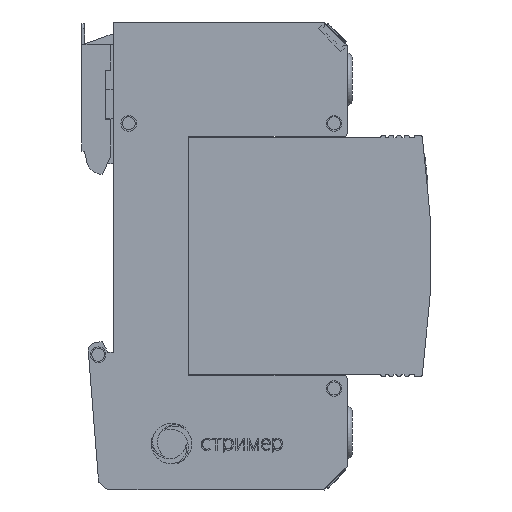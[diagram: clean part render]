
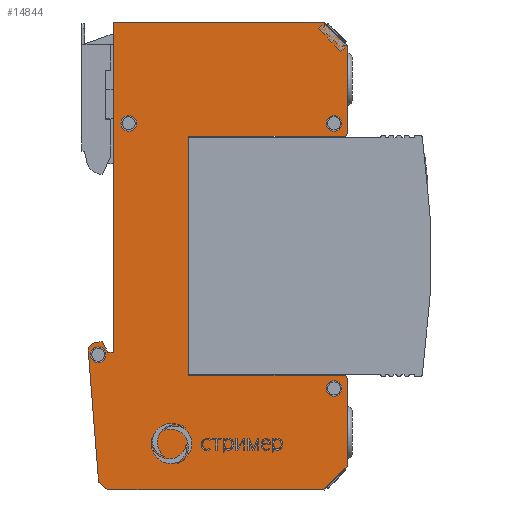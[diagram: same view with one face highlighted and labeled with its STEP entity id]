
A CAD part, front view. The second image highlights one B-rep face of the part: STEP entity #14844.
In plain terms, the highlighted planar face has unit normal (0, -1, 0).
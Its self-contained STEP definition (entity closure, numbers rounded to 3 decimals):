
#13154=CARTESIAN_POINT('',(-14.5,-18.,45.));
#13155=VERTEX_POINT('',#13154);
#13162=CARTESIAN_POINT('',(26.,-18.,45.));
#13163=VERTEX_POINT('',#13162);
#13164=CARTESIAN_POINT('',(-14.5,-18.,45.));
#13165=DIRECTION('',(1.,-0.,-0.));
#13166=VECTOR('',#13165,40.5);
#13167=LINE('',#13164,#13166);
#13168=EDGE_CURVE('',#13155,#13163,#13167,.T.);
#13792=CARTESIAN_POINT('',(-14.5,-18.,-18.5));
#13793=VERTEX_POINT('',#13792);
#13800=CARTESIAN_POINT('',(-14.5,-18.,-18.5));
#13801=DIRECTION('',(-0.,-0.,1.));
#13802=VECTOR('',#13801,63.5);
#13803=LINE('',#13800,#13802);
#13804=EDGE_CURVE('',#13793,#13155,#13803,.T.);
#13999=CARTESIAN_POINT('',(-15.5,-18.,-45.));
#14000=VERTEX_POINT('',#13999);
#14007=CARTESIAN_POINT('',(-17.29,-18.,-43.498));
#14008=VERTEX_POINT('',#14007);
#14009=CARTESIAN_POINT('',(-15.5,-18.,-45.));
#14010=DIRECTION('',(-0.766,-0.,0.643));
#14011=VECTOR('',#14010,2.337);
#14012=LINE('',#14009,#14011);
#14013=EDGE_CURVE('',#14000,#14008,#14012,.T.);
#14038=CARTESIAN_POINT('',(-19.273,-18.,-18.306));
#14039=VERTEX_POINT('',#14038);
#14040=CARTESIAN_POINT('',(-17.29,-18.,-43.498));
#14041=DIRECTION('',(-0.078,-0.,0.997));
#14042=VECTOR('',#14041,25.27);
#14043=LINE('',#14040,#14042);
#14044=EDGE_CURVE('',#14008,#14039,#14043,.T.);
#14070=CARTESIAN_POINT('',(-17.999,-18.,-16.704));
#14071=VERTEX_POINT('',#14070);
#14072=CARTESIAN_POINT('',(-17.777,-18.,-18.188));
#14073=DIRECTION('',(0.,1.,0.));
#14074=DIRECTION('',(0.,-0.,1.));
#14075=AXIS2_PLACEMENT_3D('',#14072,#14073,#14074);
#14076=CIRCLE('',#14075,1.5);
#14077=EDGE_CURVE('',#14039,#14071,#14076,.T.);
#14102=CARTESIAN_POINT('',(-16.632,-18.,-16.5));
#14103=VERTEX_POINT('',#14102);
#14104=CARTESIAN_POINT('',(-17.999,-18.,-16.704));
#14105=DIRECTION('',(0.989,-0.,0.148));
#14106=VECTOR('',#14105,1.383);
#14107=LINE('',#14104,#14106);
#14108=EDGE_CURVE('',#14071,#14103,#14107,.T.);
#14133=CARTESIAN_POINT('',(-15.5,-18.,-18.5));
#14134=VERTEX_POINT('',#14133);
#14135=CARTESIAN_POINT('',(-16.632,-18.,-16.5));
#14136=DIRECTION('',(0.492,0.,-0.87));
#14137=VECTOR('',#14136,2.298);
#14138=LINE('',#14135,#14137);
#14139=EDGE_CURVE('',#14103,#14134,#14138,.T.);
#14162=CARTESIAN_POINT('',(-15.5,-18.,-18.5));
#14163=DIRECTION('',(1.,-0.,-0.));
#14164=VECTOR('',#14163,1.);
#14165=LINE('',#14162,#14164);
#14166=EDGE_CURVE('',#14134,#13793,#14165,.T.);
#14186=CARTESIAN_POINT('',(30.5,-18.,40.5));
#14187=VERTEX_POINT('',#14186);
#14188=CARTESIAN_POINT('',(26.,-18.,45.));
#14189=DIRECTION('',(0.707,0.,-0.707));
#14190=VECTOR('',#14189,6.364);
#14191=LINE('',#14188,#14190);
#14192=EDGE_CURVE('',#13163,#14187,#14191,.T.);
#14237=CARTESIAN_POINT('',(30.5,-18.,23.5));
#14238=VERTEX_POINT('',#14237);
#14239=CARTESIAN_POINT('',(30.5,-18.,40.5));
#14240=DIRECTION('',(-0.,0.,-1.));
#14241=VECTOR('',#14240,17.);
#14242=LINE('',#14239,#14241);
#14243=EDGE_CURVE('',#14187,#14238,#14242,.T.);
#14269=CARTESIAN_POINT('',(30.,-18.,23.));
#14270=VERTEX_POINT('',#14269);
#14271=CARTESIAN_POINT('',(30.,-18.,23.5));
#14272=DIRECTION('',(0.,1.,0.));
#14273=DIRECTION('',(0.,-0.,1.));
#14274=AXIS2_PLACEMENT_3D('',#14271,#14272,#14273);
#14275=CIRCLE('',#14274,0.5);
#14276=EDGE_CURVE('',#14238,#14270,#14275,.T.);
#14301=CARTESIAN_POINT('',(0.,-18.,23.));
#14302=VERTEX_POINT('',#14301);
#14303=CARTESIAN_POINT('',(30.,-18.,23.));
#14304=DIRECTION('',(-1.,-0.,-0.));
#14305=VECTOR('',#14304,30.);
#14306=LINE('',#14303,#14305);
#14307=EDGE_CURVE('',#14270,#14302,#14306,.T.);
#14332=CARTESIAN_POINT('',(0.,-18.,-23.));
#14333=VERTEX_POINT('',#14332);
#14334=CARTESIAN_POINT('',(0.,-18.,23.));
#14335=DIRECTION('',(-0.,0.,-1.));
#14336=VECTOR('',#14335,46.);
#14337=LINE('',#14334,#14336);
#14338=EDGE_CURVE('',#14302,#14333,#14337,.T.);
#14363=CARTESIAN_POINT('',(30.,-18.,-23.));
#14364=VERTEX_POINT('',#14363);
#14365=CARTESIAN_POINT('',(0.,-18.,-23.));
#14366=DIRECTION('',(1.,-0.,-0.));
#14367=VECTOR('',#14366,30.);
#14368=LINE('',#14365,#14367);
#14369=EDGE_CURVE('',#14333,#14364,#14368,.T.);
#14395=CARTESIAN_POINT('',(30.5,-18.,-23.5));
#14396=VERTEX_POINT('',#14395);
#14397=CARTESIAN_POINT('',(30.,-18.,-23.5));
#14398=DIRECTION('',(0.,1.,0.));
#14399=DIRECTION('',(0.,-0.,1.));
#14400=AXIS2_PLACEMENT_3D('',#14397,#14398,#14399);
#14401=CIRCLE('',#14400,0.5);
#14402=EDGE_CURVE('',#14364,#14396,#14401,.T.);
#14447=CARTESIAN_POINT('',(30.5,-18.,-40.5));
#14448=VERTEX_POINT('',#14447);
#14449=CARTESIAN_POINT('',(30.5,-18.,-23.5));
#14450=DIRECTION('',(-0.,0.,-1.));
#14451=VECTOR('',#14450,17.);
#14452=LINE('',#14449,#14451);
#14453=EDGE_CURVE('',#14396,#14448,#14452,.T.);
#14478=CARTESIAN_POINT('',(26.,-18.,-45.));
#14479=VERTEX_POINT('',#14478);
#14480=CARTESIAN_POINT('',(30.5,-18.,-40.5));
#14481=DIRECTION('',(-0.707,0.,-0.707));
#14482=VECTOR('',#14481,6.364);
#14483=LINE('',#14480,#14482);
#14484=EDGE_CURVE('',#14448,#14479,#14483,.T.);
#14500=CARTESIAN_POINT('',(-17.38,-18.,-17.5));
#14501=VERTEX_POINT('',#14500);
#14502=CARTESIAN_POINT('',(-18.88,-18.,-19.));
#14503=VERTEX_POINT('',#14502);
#14504=CARTESIAN_POINT('',(-17.38,-18.,-19.));
#14505=DIRECTION('',(0.,1.,0.));
#14506=DIRECTION('',(0.,-0.,1.));
#14507=AXIS2_PLACEMENT_3D('',#14504,#14505,#14506);
#14508=CIRCLE('',#14507,1.5);
#14509=EDGE_CURVE('',#14501,#14503,#14508,.T.);
#14511=CARTESIAN_POINT('',(-17.38,-18.,-19.));
#14512=DIRECTION('',(0.,1.,0.));
#14513=DIRECTION('',(0.,-0.,1.));
#14514=AXIS2_PLACEMENT_3D('',#14511,#14512,#14513);
#14515=CIRCLE('',#14514,1.5);
#14516=EDGE_CURVE('',#14503,#14501,#14515,.T.);
#14546=CARTESIAN_POINT('',(28.,-18.,-24.));
#14547=VERTEX_POINT('',#14546);
#14548=CARTESIAN_POINT('',(26.5,-18.,-25.5));
#14549=VERTEX_POINT('',#14548);
#14550=CARTESIAN_POINT('',(28.,-18.,-25.5));
#14551=DIRECTION('',(0.,1.,0.));
#14552=DIRECTION('',(0.,-0.,1.));
#14553=AXIS2_PLACEMENT_3D('',#14550,#14551,#14552);
#14554=CIRCLE('',#14553,1.5);
#14555=EDGE_CURVE('',#14547,#14549,#14554,.T.);
#14557=CARTESIAN_POINT('',(28.,-18.,-25.5));
#14558=DIRECTION('',(0.,1.,0.));
#14559=DIRECTION('',(0.,-0.,1.));
#14560=AXIS2_PLACEMENT_3D('',#14557,#14558,#14559);
#14561=CIRCLE('',#14560,1.5);
#14562=EDGE_CURVE('',#14549,#14547,#14561,.T.);
#14592=CARTESIAN_POINT('',(-11.5,-18.,27.));
#14593=VERTEX_POINT('',#14592);
#14594=CARTESIAN_POINT('',(-13.,-18.,25.5));
#14595=VERTEX_POINT('',#14594);
#14596=CARTESIAN_POINT('',(-11.5,-18.,25.5));
#14597=DIRECTION('',(0.,1.,0.));
#14598=DIRECTION('',(0.,-0.,1.));
#14599=AXIS2_PLACEMENT_3D('',#14596,#14597,#14598);
#14600=CIRCLE('',#14599,1.5);
#14601=EDGE_CURVE('',#14593,#14595,#14600,.T.);
#14603=CARTESIAN_POINT('',(-11.5,-18.,25.5));
#14604=DIRECTION('',(0.,1.,0.));
#14605=DIRECTION('',(0.,-0.,1.));
#14606=AXIS2_PLACEMENT_3D('',#14603,#14604,#14605);
#14607=CIRCLE('',#14606,1.5);
#14608=EDGE_CURVE('',#14595,#14593,#14607,.T.);
#14638=CARTESIAN_POINT('',(28.,-18.,27.));
#14639=VERTEX_POINT('',#14638);
#14640=CARTESIAN_POINT('',(26.5,-18.,25.5));
#14641=VERTEX_POINT('',#14640);
#14642=CARTESIAN_POINT('',(28.,-18.,25.5));
#14643=DIRECTION('',(0.,1.,0.));
#14644=DIRECTION('',(0.,-0.,1.));
#14645=AXIS2_PLACEMENT_3D('',#14642,#14643,#14644);
#14646=CIRCLE('',#14645,1.5);
#14647=EDGE_CURVE('',#14639,#14641,#14646,.T.);
#14649=CARTESIAN_POINT('',(28.,-18.,25.5));
#14650=DIRECTION('',(0.,1.,0.));
#14651=DIRECTION('',(0.,-0.,1.));
#14652=AXIS2_PLACEMENT_3D('',#14649,#14650,#14651);
#14653=CIRCLE('',#14652,1.5);
#14654=EDGE_CURVE('',#14641,#14639,#14653,.T.);
#14793=CARTESIAN_POINT('',(26.,-18.,-45.));
#14794=DIRECTION('',(-1.,-0.,-0.));
#14795=VECTOR('',#14794,41.5);
#14796=LINE('',#14793,#14795);
#14797=EDGE_CURVE('',#14479,#14000,#14796,.T.);
#14803=CARTESIAN_POINT('',(0.,-18.,-0.));
#14804=DIRECTION('',(0.,1.,0.));
#14805=DIRECTION('',(0.,0.,-1.));
#14806=AXIS2_PLACEMENT_3D('',#14803,#14804,#14805);
#14807=PLANE('',#14806);
#14808=ORIENTED_EDGE('',*,*,#14654,.T.);
#14809=ORIENTED_EDGE('',*,*,#14647,.T.);
#14810=EDGE_LOOP('',(#14808,#14809));
#14811=FACE_BOUND('',#14810,.T.);
#14812=ORIENTED_EDGE('',*,*,#14608,.T.);
#14813=ORIENTED_EDGE('',*,*,#14601,.T.);
#14814=EDGE_LOOP('',(#14812,#14813));
#14815=FACE_BOUND('',#14814,.T.);
#14816=ORIENTED_EDGE('',*,*,#14562,.T.);
#14817=ORIENTED_EDGE('',*,*,#14555,.T.);
#14818=EDGE_LOOP('',(#14816,#14817));
#14819=FACE_BOUND('',#14818,.T.);
#14820=ORIENTED_EDGE('',*,*,#14516,.T.);
#14821=ORIENTED_EDGE('',*,*,#14509,.T.);
#14822=EDGE_LOOP('',(#14820,#14821));
#14823=FACE_BOUND('',#14822,.T.);
#14824=ORIENTED_EDGE('',*,*,#14013,.F.);
#14825=ORIENTED_EDGE('',*,*,#14797,.F.);
#14826=ORIENTED_EDGE('',*,*,#14484,.F.);
#14827=ORIENTED_EDGE('',*,*,#14453,.F.);
#14828=ORIENTED_EDGE('',*,*,#14402,.F.);
#14829=ORIENTED_EDGE('',*,*,#14369,.F.);
#14830=ORIENTED_EDGE('',*,*,#14338,.F.);
#14831=ORIENTED_EDGE('',*,*,#14307,.F.);
#14832=ORIENTED_EDGE('',*,*,#14276,.F.);
#14833=ORIENTED_EDGE('',*,*,#14243,.F.);
#14834=ORIENTED_EDGE('',*,*,#14192,.F.);
#14835=ORIENTED_EDGE('',*,*,#13168,.F.);
#14836=ORIENTED_EDGE('',*,*,#13804,.F.);
#14837=ORIENTED_EDGE('',*,*,#14166,.F.);
#14838=ORIENTED_EDGE('',*,*,#14139,.F.);
#14839=ORIENTED_EDGE('',*,*,#14108,.F.);
#14840=ORIENTED_EDGE('',*,*,#14077,.F.);
#14841=ORIENTED_EDGE('',*,*,#14044,.F.);
#14842=EDGE_LOOP('',(#14824,#14825,#14826,#14827,#14828,#14829,#14830,#14831,#14832,#14833,#14834,#14835,#14836,#14837,#14838,#14839,#14840,#14841));
#14843=FACE_BOUND('',#14842,.T.);
#14844=ADVANCED_FACE('',(#14811,#14815,#14819,#14823,#14843),#14807,.F.);
